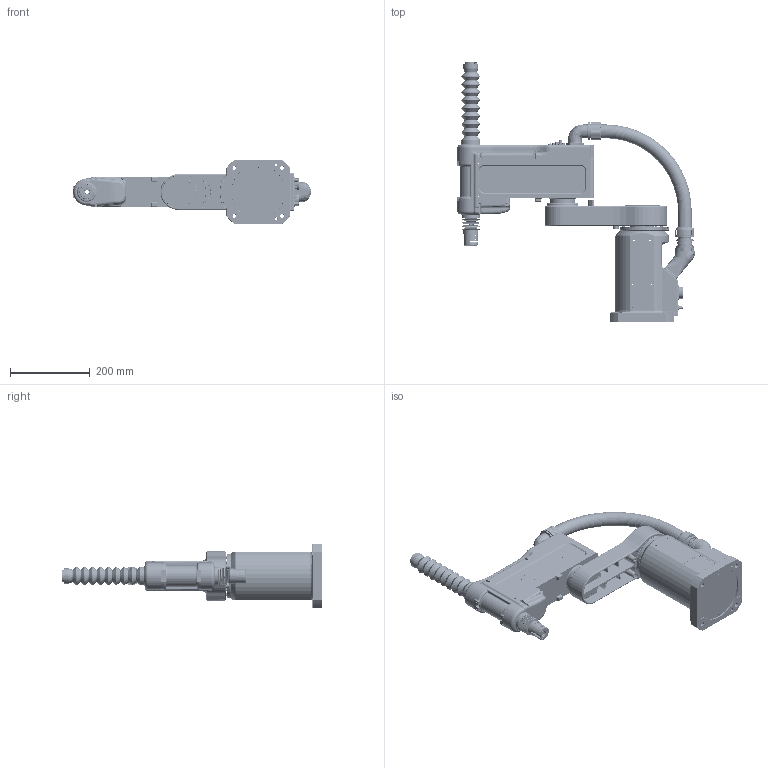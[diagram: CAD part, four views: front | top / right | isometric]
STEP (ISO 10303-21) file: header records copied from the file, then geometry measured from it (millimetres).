
FILE_DESCRIPTION (( 'STEP AP214' ), '1' );
FILE_NAME ('R4-0404F 3D耀倰.STEP', '2023-06-08T06:55:48', ( 'iCura' ), ( 'ICOS' ), 'SwSTEP 2.0', 'SolidWorks 2018', '' );
FILE_SCHEMA (( 'AUTOMOTIVE_DESIGN' ));
Length unit declared in the file: millimetre
Products named in the file (7): R4-0404F-4-00_300; 软管接头_1; 疏恇奪R4-0404; R4-0404-3-00 J3粣 ; R4-0404-1-00; R4-0404-2-00_S400; R4-0404F 3D耀倰
Assembly tree (6 placements, depth 2):
  R4-0404F 3D耀倰
    R4-0404-1-00
    R4-0404-2-00_S400
    R4-0404-3-00 J3粣 
    软管接头_1
    疏恇奪R4-0404
    R4-0404F-4-00_300
Bounding box: 595.65 x 653.5 x 160 mm (x, y, z)
Volume: 155638.8 mm3; surface area: 923694 mm2
Topology: 2 solids, 419 shells, 2857 faces, 10108 edges, 7356 vertices
Faces by surface type: cylinder 1100, plane 887, cone 358, bspline 286, torus 200, sphere 26
Full cylindrical faces by diameter (mm): 1 x18, 2.5 x20, 2.6 x1, 3.2 x8, 3.3 x28, 3.4 x27, 3.5 x30, 4 x18, 4.2 x6, 4.5 x38, 5 x4, 5.5 x10, 6 x7, 6.5 x12, 7 x10, 8 x10, 9 x9, 10 x1, 13 x2, 14 x1, 15 x2, 16 x2, 16.5 x1, 26 x1, 28 x1, 28.2 x2, 29 x2, 29.5 x1, 30 x4, 30.2 x1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
Entity records: 167565 total; most frequent: CARTESIAN_POINT 55783, DIRECTION 17020, ORIENTED_EDGE 14105, EDGE_CURVE 9104, VERTEX_POINT 7121, AXIS2_PLACEMENT_3D 6889, CIRCLE 4308, EDGE_LOOP 4098
